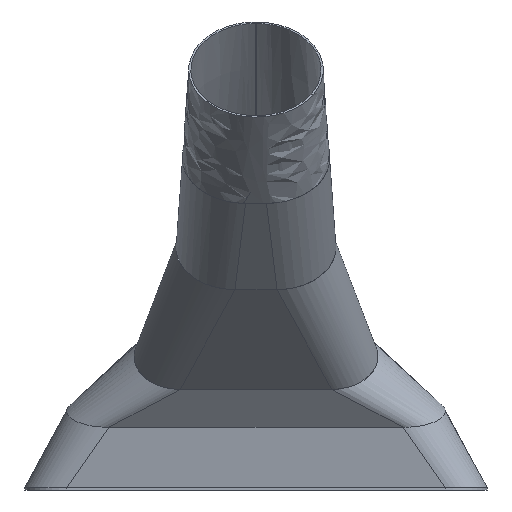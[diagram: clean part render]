
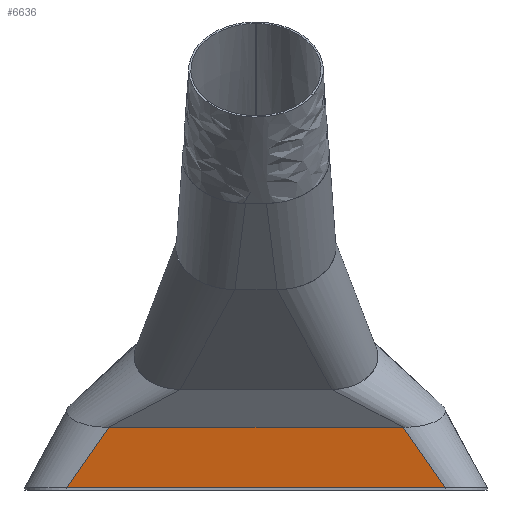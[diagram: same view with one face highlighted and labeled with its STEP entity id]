
A CAD part, front view. The second image highlights one B-rep face of the part: STEP entity #6636.
In plain terms, the highlighted planar face has unit normal (0, -0.988, -0.157).
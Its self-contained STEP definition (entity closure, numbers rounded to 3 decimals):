
#4153 = DIRECTION ( 'NONE',  ( 1., 0., 0. ) ) ;
#4154 = VECTOR ( 'NONE', #4153, 1000. ) ;
#4155 = CARTESIAN_POINT ( 'NONE',  ( -225., -50., 2.5 ) ) ;
#4160 = CARTESIAN_POINT ( 'NONE',  ( 225., -50., 2.5 ) ) ;
#4162 = LINE ( 'NONE', #4155, #4154 ) ;
#4306 = CARTESIAN_POINT ( 'NONE',  ( -225., -50., 2.5 ) ) ;
#4399 = DIRECTION ( 'NONE',  ( 1., 0., 0. ) ) ;
#4400 = CARTESIAN_POINT ( 'NONE',  ( -175., -61.418, 74.56 ) ) ;
#4405 = CARTESIAN_POINT ( 'NONE',  ( -175., -61.418, 74.56 ) ) ;
#4407 = LINE ( 'NONE', #4400, #4464 ) ;
#4464 = VECTOR ( 'NONE', #4399, 1000. ) ;
#4559 = CARTESIAN_POINT ( 'NONE',  ( 175., -61.418, 74.56 ) ) ;
#4578 = DIRECTION ( 'NONE',  ( -0.565, -0.129, 0.815 ) ) ;
#4579 = VECTOR ( 'NONE', #4578, 1000. ) ;
#4580 = CARTESIAN_POINT ( 'NONE',  ( 225., -50., 2.5 ) ) ;
#4581 = LINE ( 'NONE', #4580, #4579 ) ;
#4593 = DIRECTION ( 'NONE',  ( 0.565, -0.129, 0.815 ) ) ;
#4594 = VECTOR ( 'NONE', #4593, 1000. ) ;
#4595 = CARTESIAN_POINT ( 'NONE',  ( -200., -55.709, 38.53 ) ) ;
#4596 = LINE ( 'NONE', #4595, #4594 ) ;
#4944 = AXIS2_PLACEMENT_3D ( 'NONE', #4990, #4989, #4988 ) ;
#4945 = PLANE ( 'NONE',  #4944 ) ;
#4948 = FACE_OUTER_BOUND ( 'NONE', #6637, .T. ) ;
#4988 = DIRECTION ( 'NONE',  ( 0., -0.157, 0.988 ) ) ;
#4989 = DIRECTION ( 'NONE',  ( 0., 0.988, 0.157 ) ) ;
#4990 = CARTESIAN_POINT ( 'NONE',  ( 0., -101.381, 326.769 ) ) ;
#6445 = VERTEX_POINT ( 'NONE', #4160 ) ;
#6447 = EDGE_CURVE ( 'NONE', #6461, #6445, #4162, .T. ) ;
#6461 = VERTEX_POINT ( 'NONE', #4306 ) ;
#6536 = VERTEX_POINT ( 'NONE', #4405 ) ;
#6538 = EDGE_CURVE ( 'NONE', #6536, #6551, #4407, .T. ) ;
#6551 = VERTEX_POINT ( 'NONE', #4559 ) ;
#6562 = EDGE_CURVE ( 'NONE', #6445, #6551, #4581, .T. ) ;
#6563 = ORIENTED_EDGE ( 'NONE', *, *, #6538, .F. ) ;
#6564 = ORIENTED_EDGE ( 'NONE', *, *, #6580, .F. ) ;
#6565 = ORIENTED_EDGE ( 'NONE', *, *, #6447, .T. ) ;
#6580 = EDGE_CURVE ( 'NONE', #6461, #6536, #4596, .T. ) ;
#6636 = ADVANCED_FACE ( 'NONE', ( #4948 ), #4945, .F. ) ;
#6637 = EDGE_LOOP ( 'NONE', ( #6638, #6563, #6564, #6565 ) ) ;
#6638 = ORIENTED_EDGE ( 'NONE', *, *, #6562, .T. ) ;
